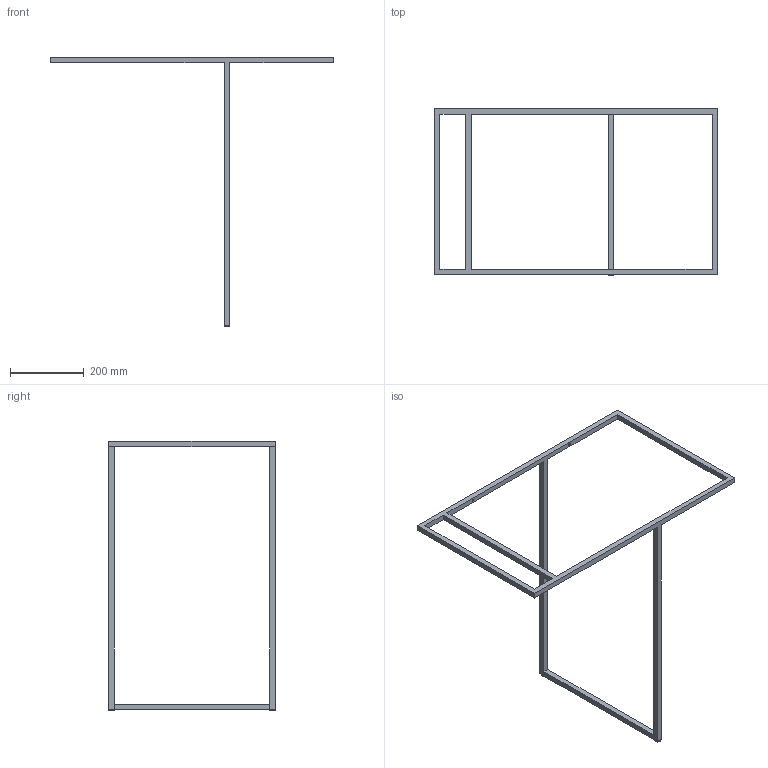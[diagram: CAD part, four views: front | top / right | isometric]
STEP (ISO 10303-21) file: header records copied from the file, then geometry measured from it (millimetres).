
FILE_DESCRIPTION(('CATIA V5 STEP Exchange'),'2;1');
FILE_NAME('C:\Users\167035\Downloads\3D_7720.stp','2025-05-21T08:45:10+00:00',('none'),('none'),'CATIA Version 5 Release 19 SP 5 (IN-10)','CATIA V5 STEP AP214','none');
FILE_SCHEMA(('AUTOMOTIVE_DESIGN { 1 0 10303 214 1 1 1 1 }'));
Length unit declared in the file: millimetre
Products named in the file (1): Struttura art 7720
Bounding box: 770 x 452 x 733 mm (x, y, z)
Volume: 1047281 mm3; surface area: 280091.5 mm2
Topology: 1 solids, 1 shells, 49 faces, 130 edges, 82 vertices
Faces by surface type: plane 37, cylinder 12
Entity records: 1399 total; most frequent: ORIENTED_EDGE 260, CARTESIAN_POINT 239, DIRECTION 182, EDGE_CURVE 130, VECTOR 100, LINE 100, VERTEX_POINT 82, EDGE_LOOP 58
